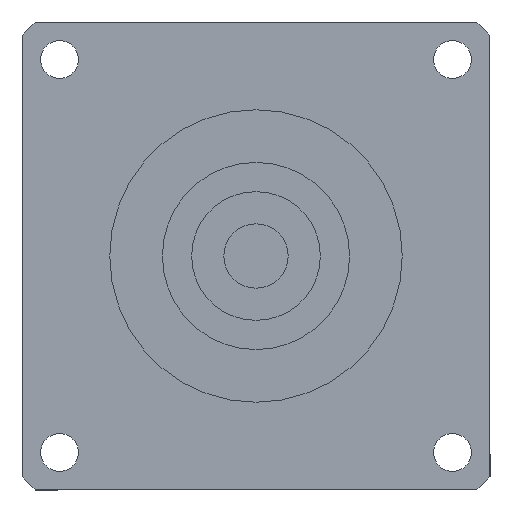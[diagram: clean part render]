
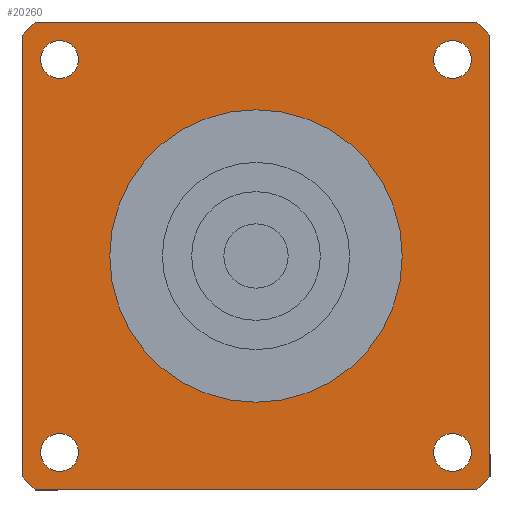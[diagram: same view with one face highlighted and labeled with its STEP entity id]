
A CAD part, left-side view. The second image highlights one B-rep face of the part: STEP entity #20260.
In plain terms, the highlighted planar face has unit normal (-1, 0, 0) as drawn and (0, 0, -1) by its records, which use the part's own axes.
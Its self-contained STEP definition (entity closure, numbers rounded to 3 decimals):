
#11110=CARTESIAN_POINT('',(-40.,37.749,-60.));
#11120=VERTEX_POINT('',#11110);
#11270=CARTESIAN_POINT('',(-40.,-37.749,-60.));
#11280=VERTEX_POINT('',#11270);
#11310=CARTESIAN_POINT('',(-40.,40.,-60.));
#11320=DIRECTION('',(0.,-1.,0.));
#11330=VECTOR('',#11320,1000.);
#11340=LINE('',#11310,#11330);
#11350=EDGE_CURVE('',#11120,#11280,#11340,.T.);
#12930=CARTESIAN_POINT('',(-37.749,-40.,-60.));
#12940=VERTEX_POINT('',#12930);
#12970=CARTESIAN_POINT('',(0.,0.,
-60.));
#12980=DIRECTION('',(0.,0.,1.));
#12990=DIRECTION('',(0.,-1.,0.));
#13000=AXIS2_PLACEMENT_3D('',#12970,#12980,#12990);
#13010=CIRCLE('',#13000,55.);
#13020=EDGE_CURVE('',#11280,#12940,#13010,.T.);
#17850=CARTESIAN_POINT('',(-37.749,40.,-60.));
#17860=VERTEX_POINT('',#17850);
#17910=CARTESIAN_POINT('',(0.,0.,
-60.));
#17920=DIRECTION('',(0.,0.,1.));
#17930=DIRECTION('',(0.,-1.,0.));
#17940=AXIS2_PLACEMENT_3D('',#17910,#17920,#17930);
#17950=CIRCLE('',#17940,55.);
#17960=EDGE_CURVE('',#17860,#11120,#17950,.T.);
#18100=CARTESIAN_POINT('',(37.749,40.,-60.));
#18110=VERTEX_POINT('',#18100);
#18160=CARTESIAN_POINT('',(40.,40.,-60.));
#18170=DIRECTION('',(-1.,0.,0.));
#18180=VECTOR('',#18170,1000.);
#18190=LINE('',#18160,#18180);
#18200=EDGE_CURVE('',#18110,#17860,#18190,.T.);
#18310=CARTESIAN_POINT('',(0.,0.,
-60.));
#18320=DIRECTION('',(0.,0.,1.));
#18330=DIRECTION('',(0.,-1.,0.));
#18340=AXIS2_PLACEMENT_3D('',#18310,#18320,#18330);
#18350=CIRCLE('',#18340,55.);
#18360=CARTESIAN_POINT('',(40.,37.749,-60.));
#18370=VERTEX_POINT('',#18360);
#18380=EDGE_CURVE('',#18370,#18110,#18350,.T.);
#18590=CARTESIAN_POINT('',(40.,-37.749,-60.));
#18600=VERTEX_POINT('',#18590);
#18650=CARTESIAN_POINT('',(40.,-40.,-60.));
#18660=DIRECTION('',(0.,1.,0.));
#18670=VECTOR('',#18660,1000.);
#18680=LINE('',#18650,#18670);
#18690=EDGE_CURVE('',#18600,#18370,#18680,.T.);
#18830=CARTESIAN_POINT('',(37.749,-40.,-60.));
#18840=VERTEX_POINT('',#18830);
#18890=CARTESIAN_POINT('',(0.,0.,
-60.));
#18900=DIRECTION('',(0.,0.,1.));
#18910=DIRECTION('',(0.,-1.,0.));
#18920=AXIS2_PLACEMENT_3D('',#18890,#18900,#18910);
#18930=CIRCLE('',#18920,55.);
#18940=EDGE_CURVE('',#18840,#18600,#18930,.T.);
#19070=CARTESIAN_POINT('',(-40.,-40.,-60.));
#19080=DIRECTION('',(1.,0.,0.));
#19090=VECTOR('',#19080,1000.);
#19100=LINE('',#19070,#19090);
#19110=EDGE_CURVE('',#12940,#18840,#19100,.T.);
#19160=CARTESIAN_POINT('',(-40.,40.,-60.));
#19170=DIRECTION('',(0.,0.,1.));
#19180=DIRECTION('',(-1.,0.,0.));
#19190=AXIS2_PLACEMENT_3D('',#19160,#19170,#19180);
#19200=PLANE('',#19190);
#19210=CARTESIAN_POINT('',(33.588,-33.588,-60.));
#19220=DIRECTION('',(0.,0.,-1.));
#19230=DIRECTION('',(1.,0.,0.));
#19240=AXIS2_PLACEMENT_3D('',#19210,#19220,#19230);
#19250=CIRCLE('',#19240,3.25);
#19260=CARTESIAN_POINT('',(36.838,-33.588,-60.));
#19270=VERTEX_POINT('',#19260);
#19280=CARTESIAN_POINT('',(33.588,-36.838,-60.));
#19290=VERTEX_POINT('',#19280);
#19300=EDGE_CURVE('',#19270,#19290,#19250,.T.);
#19310=ORIENTED_EDGE('',*,*,#19300,.F.);
#19320=CARTESIAN_POINT('',(33.588,-30.338,-60.));
#19330=VERTEX_POINT('',#19320);
#19340=EDGE_CURVE('',#19290,#19330,#19250,.T.);
#19350=ORIENTED_EDGE('',*,*,#19340,.F.);
#19360=EDGE_CURVE('',#19330,#19270,#19250,.T.);
#19370=ORIENTED_EDGE('',*,*,#19360,.F.);
#19380=EDGE_LOOP('',(#19370,#19350,#19310));
#19390=FACE_BOUND('',#19380,.T.);
#19400=CARTESIAN_POINT('',(33.588,33.588,-60.));
#19410=DIRECTION('',(0.,0.,-1.));
#19420=DIRECTION('',(0.,1.,0.));
#19430=AXIS2_PLACEMENT_3D('',#19400,#19410,#19420);
#19440=CIRCLE('',#19430,3.25);
#19450=CARTESIAN_POINT('',(33.588,36.838,-60.));
#19460=VERTEX_POINT('',#19450);
#19470=CARTESIAN_POINT('',(36.838,33.588,-60.));
#19480=VERTEX_POINT('',#19470);
#19490=EDGE_CURVE('',#19460,#19480,#19440,.T.);
#19500=ORIENTED_EDGE('',*,*,#19490,.F.);
#19510=CARTESIAN_POINT('',(30.338,33.588,-60.));
#19520=VERTEX_POINT('',#19510);
#19530=EDGE_CURVE('',#19480,#19520,#19440,.T.);
#19540=ORIENTED_EDGE('',*,*,#19530,.F.);
#19550=EDGE_CURVE('',#19520,#19460,#19440,.T.);
#19560=ORIENTED_EDGE('',*,*,#19550,.F.);
#19570=EDGE_LOOP('',(#19560,#19540,#19500));
#19580=FACE_BOUND('',#19570,.T.);
#19590=CARTESIAN_POINT('',(-33.588,33.588,-60.));
#19600=DIRECTION('',(0.,0.,-1.));
#19610=DIRECTION('',(-1.,0.,0.));
#19620=AXIS2_PLACEMENT_3D('',#19590,#19600,#19610);
#19630=CIRCLE('',#19620,3.25);
#19640=CARTESIAN_POINT('',(-36.838,33.588,-60.));
#19650=VERTEX_POINT('',#19640);
#19660=CARTESIAN_POINT('',(-33.588,36.838,-60.));
#19670=VERTEX_POINT('',#19660);
#19680=EDGE_CURVE('',#19650,#19670,#19630,.T.);
#19690=ORIENTED_EDGE('',*,*,#19680,.F.);
#19700=CARTESIAN_POINT('',(-33.588,30.338,-60.));
#19710=VERTEX_POINT('',#19700);
#19720=EDGE_CURVE('',#19670,#19710,#19630,.T.);
#19730=ORIENTED_EDGE('',*,*,#19720,.F.);
#19740=EDGE_CURVE('',#19710,#19650,#19630,.T.);
#19750=ORIENTED_EDGE('',*,*,#19740,.F.);
#19760=EDGE_LOOP('',(#19750,#19730,#19690));
#19770=FACE_BOUND('',#19760,.T.);
#19780=CARTESIAN_POINT('',(-33.588,-33.588,-60.));
#19790=DIRECTION('',(0.,0.,-1.));
#19800=DIRECTION('',(0.,-1.,0.));
#19810=AXIS2_PLACEMENT_3D('',#19780,#19790,#19800);
#19820=CIRCLE('',#19810,3.25);
#19830=CARTESIAN_POINT('',(-33.588,-36.838,-60.));
#19840=VERTEX_POINT('',#19830);
#19850=CARTESIAN_POINT('',(-36.838,-33.588,-60.));
#19860=VERTEX_POINT('',#19850);
#19870=EDGE_CURVE('',#19840,#19860,#19820,.T.);
#19880=ORIENTED_EDGE('',*,*,#19870,.F.);
#19890=CARTESIAN_POINT('',(-30.338,-33.588,-60.));
#19900=VERTEX_POINT('',#19890);
#19910=EDGE_CURVE('',#19860,#19900,#19820,.T.);
#19920=ORIENTED_EDGE('',*,*,#19910,.F.);
#19930=EDGE_CURVE('',#19900,#19840,#19820,.T.);
#19940=ORIENTED_EDGE('',*,*,#19930,.F.);
#19950=EDGE_LOOP('',(#19940,#19920,#19880));
#19960=FACE_BOUND('',#19950,.T.);
#19970=ORIENTED_EDGE('',*,*,#13020,.F.);
#19980=ORIENTED_EDGE('',*,*,#19110,.F.);
#19990=ORIENTED_EDGE('',*,*,#18940,.F.);
#20000=ORIENTED_EDGE('',*,*,#18690,.F.);
#20010=ORIENTED_EDGE('',*,*,#18380,.F.);
#20020=ORIENTED_EDGE('',*,*,#18200,.F.);
#20030=ORIENTED_EDGE('',*,*,#17960,.F.);
#20040=ORIENTED_EDGE('',*,*,#11350,.F.);
#20050=EDGE_LOOP('',(#20040,#20030,#20020,#20010,#20000,#19990,#19980,
#19970));
#20060=FACE_OUTER_BOUND('',#20050,.T.);
#20070=CARTESIAN_POINT('',(0.,0.,
-60.));
#20080=DIRECTION('',(0.,0.,1.));
#20090=DIRECTION('',(0.,-1.,0.));
#20100=AXIS2_PLACEMENT_3D('',#20070,#20080,#20090);
#20110=CIRCLE('',#20100,25.);
#20120=CARTESIAN_POINT('',(25.,0.,-60.));
#20130=VERTEX_POINT('',#20120);
#20140=CARTESIAN_POINT('',(-25.,0.,-60.));
#20150=VERTEX_POINT('',#20140);
#20160=EDGE_CURVE('',#20130,#20150,#20110,.T.);
#20170=ORIENTED_EDGE('',*,*,#20160,.T.);
#20180=CARTESIAN_POINT('',(0.,-25.,-60.));
#20190=VERTEX_POINT('',#20180);
#20200=EDGE_CURVE('',#20190,#20130,#20110,.T.);
#20210=ORIENTED_EDGE('',*,*,#20200,.T.);
#20220=EDGE_CURVE('',#20150,#20190,#20110,.T.);
#20230=ORIENTED_EDGE('',*,*,#20220,.T.);
#20240=EDGE_LOOP('',(#20230,#20210,#20170));
#20250=FACE_BOUND('',#20240,.T.);
#20260=ADVANCED_FACE('',(#19390,#19580,#19770,#19960,#20060,#20250),
#19200,.F.);
